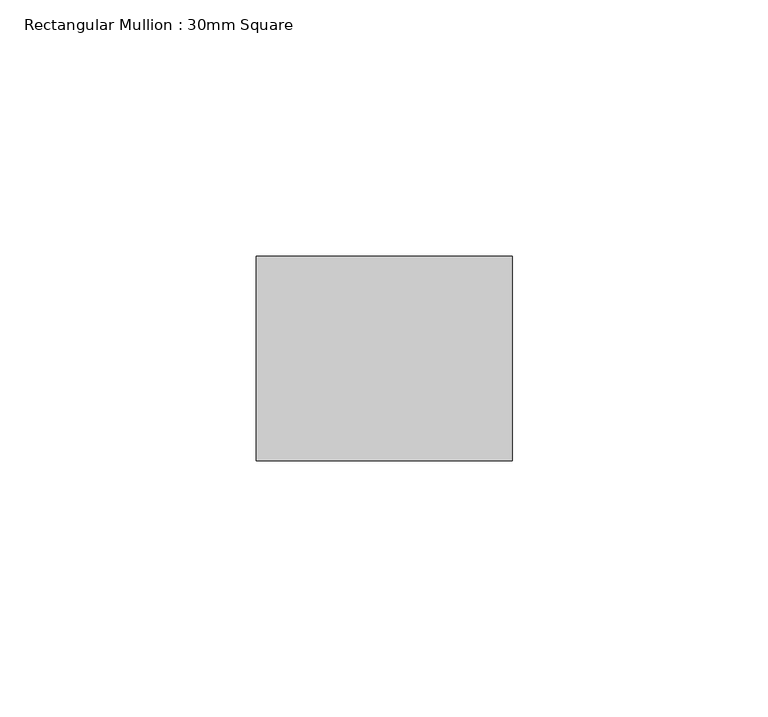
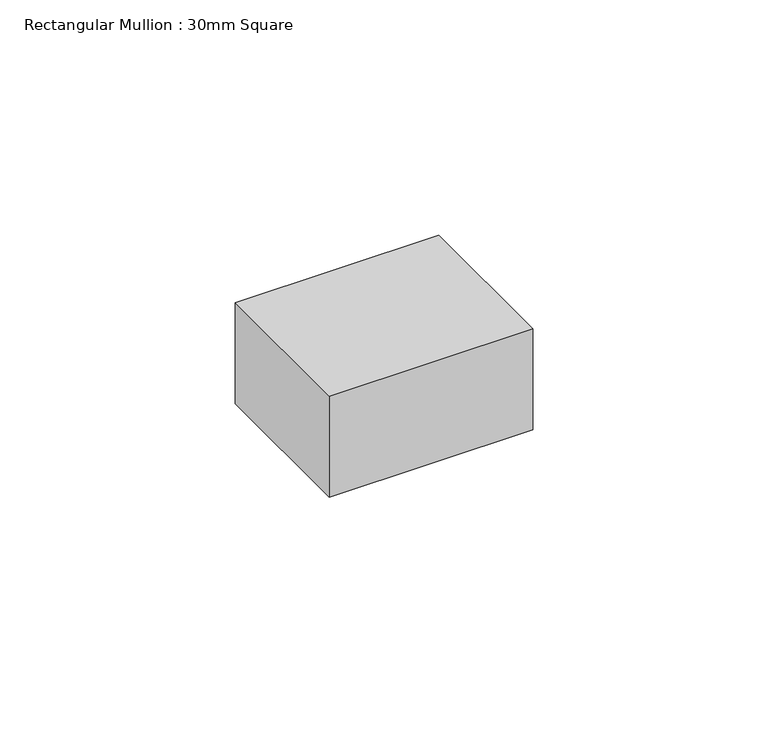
"""IFC4 building model written with IfcOpenShell, lengths in millimetres: member geometry, Rectangular Mullion : 30mm Square."""

import ifcopenshell
import ifcopenshell.guid

model = None  # the IFC model being written
_history = None  # IfcOwnerHistory: only IFC2X3 demands one
_inside = {}  # id of a spatial element -> (the spatial element, [elements in it])
_under = {}  # id of a project, library or spatial element -> (it, [spatial elements below it])
_declared = {}  # id of a project -> (the project, [libraries it declares])
_typed = {}  # id of a type object -> (the type object, [elements of that type])
_made_of = {}  # id of a material, layer set ... -> (it, [elements and type objects made of it])


def new_model(schema):
    """Start an empty IFC model of exactly this schema.

    Asked for "IFC4X3", IfcOpenShell would pick the latest addendum, in which some entities
    have other attributes; the version numbers below select the first issue.
    IFC2X3 requires an IfcOwnerHistory on every rooted entity: one is made here for all.
    """
    global model, _history
    if schema == "IFC4X3":
        model = ifcopenshell.file(schema_version=(4, 3, 0, 0))
    else:
        model = ifcopenshell.file(schema=schema)
    _inside.clear()
    _under.clear()
    _declared.clear()
    _typed.clear()
    _made_of.clear()
    _history = None
    if model.schema == "IFC2X3":
        org = make("IfcOrganization", Name="unknown")
        user = make(
            "IfcPersonAndOrganization",
            ThePerson=make("IfcPerson", FamilyName="unknown"),
            TheOrganization=org,
        )
        app = make(
            "IfcApplication",
            ApplicationDeveloper=org,
            Version="unknown",
            ApplicationFullName="unknown",
            ApplicationIdentifier="unknown",
        )
        _history = make(
            "IfcOwnerHistory",
            OwningUser=user,
            OwningApplication=app,
            ChangeAction="ADDED",
            CreationDate=0,
        )
    return model


def make(cls, **values):
    """One entity of the class cls with the attributes given. An attribute that is None is left unset."""
    return model.create_entity(
        cls, **{name: value for name, value in values.items() if value is not None}
    )


def rooted(cls, **values):
    """An entity with a GlobalId (a new one), such as an element, a storey or a relation."""
    return make(cls, GlobalId=ifcopenshell.guid.new(), OwnerHistory=_history, **values)


def si_unit(unit_type, name, prefix=None):
    """IfcSIUnit, for example si_unit("LENGTHUNIT", "METRE", prefix="MILLI")."""
    return make("IfcSIUnit", UnitType=unit_type, Prefix=prefix, Name=name)


def assignment(units):
    """IfcUnitAssignment: the units of a project."""
    return None if units is None else make("IfcUnitAssignment", Units=units)


def point(xyz):
    """IfcCartesianPoint."""
    return None if xyz is None else make("IfcCartesianPoint", Coordinates=xyz)


def direction(xyz):
    """IfcDirection."""
    return None if xyz is None else make("IfcDirection", DirectionRatios=xyz)


def frame(location, z_axis=None, x_axis=None):
    """IfcAxis2Placement3D, a coordinate frame: its origin and axes. An axis left out is left unset."""
    return make(
        "IfcAxis2Placement3D",
        Location=point(location),
        Axis=direction(z_axis),
        RefDirection=direction(x_axis),
    )


def origin():
    """The frame at (0, 0, 0) with its axes left unset."""
    return frame((0.0, 0.0, 0.0))


def place(relative_to, where):
    """IfcLocalPlacement: puts the frame where relative to a parent placement (None: the world)."""
    return make(
        "IfcLocalPlacement", PlacementRelTo=relative_to, RelativePlacement=where
    )


def context(
    kind, dimensions, precision=None, world=None, true_north=None, identifier=None
):
    """IfcGeometricRepresentationContext, for example the 3D "Model" context."""
    return make(
        "IfcGeometricRepresentationContext",
        ContextIdentifier=identifier,
        ContextType=kind,
        CoordinateSpaceDimension=dimensions,
        Precision=precision,
        WorldCoordinateSystem=world,
        TrueNorth=true_north,
    )


def project(units=None, contexts=None):
    """IfcProject with its units and contexts."""
    return rooted(
        "IfcProject",
        Name="project",
        RepresentationContexts=contexts,
        UnitsInContext=assignment(units),
    )


def spatial(cls, under=None, at=None, **own):
    """A site, building, storey or space (cls), placed at a placement, below another one or the project."""
    s = rooted(cls, ObjectPlacement=at, **own)
    if under is not None:
        _under.setdefault(under.id(), (under, []))[1].append(s)
    return s


def polyline(points):
    """IfcPolyline through the points."""
    return make("IfcPolyline", Points=[point(p) for p in points])


def outline(outer, holes=None, kind="AREA"):
    """IfcArbitraryClosedProfileDef: a profile drawn as a closed curve; with holes, ...WithVoids."""
    if holes is None:
        return make("IfcArbitraryClosedProfileDef", ProfileType=kind, OuterCurve=outer)
    return make(
        "IfcArbitraryProfileDefWithVoids",
        ProfileType=kind,
        OuterCurve=outer,
        InnerCurves=holes,
    )


def extrude(swept, where, along, depth):
    """IfcExtrudedAreaSolid: the profile swept, set in the frame where, extruded along a direction by depth."""
    return make(
        "IfcExtrudedAreaSolid",
        SweptArea=swept,
        Position=where,
        ExtrudedDirection=direction(along),
        Depth=depth,
    )


def shape(context_of_items, identifier, shape_type, items):
    """IfcShapeRepresentation: the items that make up one representation, for example the "Body"."""
    return make(
        "IfcShapeRepresentation",
        ContextOfItems=context_of_items,
        RepresentationIdentifier=identifier,
        RepresentationType=shape_type,
        Items=items,
    )


def source(mapping_origin, context_of_items, identifier, shape_type, items):
    """IfcRepresentationMap: a shape defined once, which mapped items show again and again."""
    return make(
        "IfcRepresentationMap",
        MappingOrigin=mapping_origin,
        MappedRepresentation=shape(context_of_items, identifier, shape_type, items),
    )


def transform(
    local_origin,
    x_axis=None,
    y_axis=None,
    z_axis=None,
    scale=None,
    scale2=None,
    scale3=None,
    uniform=True,
):
    """IfcCartesianTransformationOperator3D, or its non-uniform kind. x_axis, y_axis, z_axis: its Axis1, 2, 3."""
    if uniform:
        return make(
            "IfcCartesianTransformationOperator3D",
            Axis1=direction(x_axis),
            Axis2=direction(y_axis),
            LocalOrigin=point(local_origin),
            Scale=scale,
            Axis3=direction(z_axis),
        )
    return make(
        "IfcCartesianTransformationOperator3DnonUniform",
        Axis1=direction(x_axis),
        Axis2=direction(y_axis),
        LocalOrigin=point(local_origin),
        Scale=scale,
        Axis3=direction(z_axis),
        Scale2=scale2,
        Scale3=scale3,
    )


def mapped(mapping_source, mapping_target):
    """IfcMappedItem: shows the shape of a source again, moved by a transform."""
    return make(
        "IfcMappedItem", MappingSource=mapping_source, MappingTarget=mapping_target
    )


def made_of(thing, what):
    """Note that an element or type object is made of a material, layer set ...; save() writes the relation."""
    if what is not None:
        _made_of.setdefault(what.id(), (what, []))[1].append(thing)
    return thing


def element(
    cls,
    number,
    at=None,
    inside=None,
    cuts=None,
    type_object=None,
    material=None,
    context=None,
    identifier="Body",
    shape_type=None,
    held_by="IfcProductDefinitionShape",
    body=None,
    shapes=None,
    **own,
):
    """One element of the class cls, such as IfcWall. Its Tag is "e" and its number.

    at: its placement. inside: the storey or other place that contains it. cuts: it is an
    opening in that element (IfcRelVoidsElement). A single representation is given by context,
    identifier, shape_type and body (its items); several are given by shapes. held_by: the class
    of the entity that holds the representations. save() writes the other relations.
    """
    e = rooted(cls, Tag="e%d" % number, ObjectPlacement=at, **own)
    if body is not None:
        shapes = [shape(context, identifier, shape_type, body)]
    if shapes is not None:
        e.Representation = make(held_by, Representations=shapes)
    if inside is not None:
        _inside.setdefault(inside.id(), (inside, []))[1].append(e)
    if cuts is not None:
        rooted(
            "IfcRelVoidsElement", RelatingBuildingElement=cuts, RelatedOpeningElement=e
        )
    if type_object is not None:
        _typed.setdefault(type_object.id(), (type_object, []))[1].append(e)
    return made_of(e, material)


def aggregate(whole, parts):
    """IfcRelAggregates: a whole, such as a stair, and the parts it consists of."""
    return rooted("IfcRelAggregates", RelatingObject=whole, RelatedObjects=parts)


def save(model, path):
    """Write the relations noted so far, then the file.

    IfcRelAggregates (storeys below a building ...), IfcRelContainedInSpatialStructure (elements
    in a storey), IfcRelDefinesByType, IfcRelAssociatesMaterial and IfcRelDeclares: one each for
    every whole, place, type object, material and project.
    """
    for whole, parts in _under.values():
        aggregate(whole, parts)
    for where, things in _inside.values():
        rooted(
            "IfcRelContainedInSpatialStructure",
            RelatedElements=things,
            RelatingStructure=where,
        )
    for kind, things in _typed.values():
        rooted("IfcRelDefinesByType", RelatedObjects=things, RelatingType=kind)
    for what, things in _made_of.values():
        rooted("IfcRelAssociatesMaterial", RelatedObjects=things, RelatingMaterial=what)
    for by, libraries in _declared.values():
        rooted("IfcRelDeclares", RelatingContext=by, RelatedDefinitions=libraries)
    model.write(path)


def rectangular_mullion_30mm_square_c7845013(model_context):
    return source(origin(), model_context, "Body", "SweptSolid", [
        extrude(outline(polyline([(0.0, 20.0), (0.0, -20.0), (-50.0, -20.0), (-50.0, 20.0), (0.0, 20.0)])), frame((0.0, 0.0, -26.3162338), z_axis=(0.0, 0.0, 1.0), x_axis=(1.0, 0.0, 0.0)), (0.0, 0.0, 1.0), 26.3162338),
    ])


if __name__ == "__main__":
    model = new_model("IFC4")
    model_context = context("Model", 3, world=origin())
    ifc_project = project(units=[si_unit("LENGTHUNIT", "METRE", prefix="MILLI")], contexts=[model_context])
    site = spatial("IfcSite", under=ifc_project)
    building = spatial("IfcBuilding", under=site)
    placement = place(None, origin())
    rectangular_mullion_30mm_square_shape = rectangular_mullion_30mm_square_c7845013(model_context)
    element("IfcMember", 1, ObjectType="Rectangular Mullion : 30mm Square", at=placement, inside=building, context=model_context, shape_type="MappedRepresentation", body=[
        mapped(rectangular_mullion_30mm_square_shape, transform((0.0, 0.0, 0.0), x_axis=(1.0, 0.0, 0.0), y_axis=(0.0, 1.0, 0.0), z_axis=(0.0, 0.0, 1.0))),
    ])
    save(model, "model.ifc")
